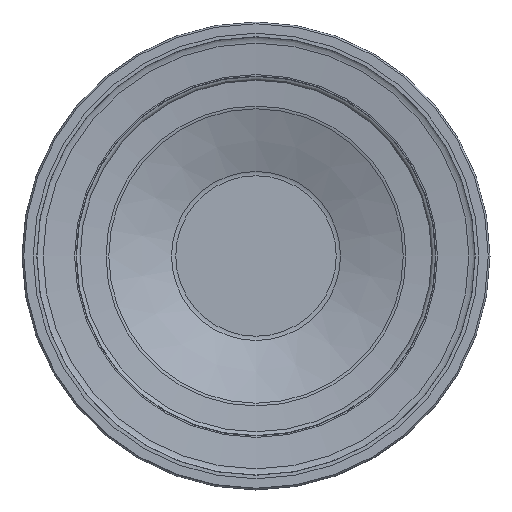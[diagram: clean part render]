
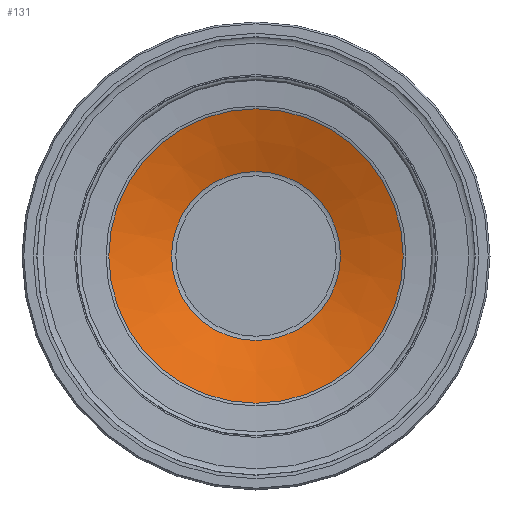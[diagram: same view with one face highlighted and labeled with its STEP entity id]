
A CAD part, left-side view. The second image highlights one B-rep face of the part: STEP entity #131.
In plain terms, the highlighted conical face has half-angle 70 degrees and reference radius 13.39 mm.
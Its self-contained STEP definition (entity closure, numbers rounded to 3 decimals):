
#131=ADVANCED_FACE('',(#198,#199),#140,.F.);
#140=CONICAL_SURFACE('',#474,13.39,70.);
#198=FACE_BOUND('',#262,.T.);
#199=FACE_BOUND('',#263,.T.);
#262=EDGE_LOOP('',(#326));
#263=EDGE_LOOP('',(#327));
#326=ORIENTED_EDGE('',*,*,#393,.T.);
#327=ORIENTED_EDGE('',*,*,#394,.T.);
#361=VERTEX_POINT('',#779);
#362=VERTEX_POINT('',#782);
#393=EDGE_CURVE('',#361,#361,#425,.T.);
#394=EDGE_CURVE('',#362,#362,#426,.T.);
#425=CIRCLE('',#471,13.721);
#426=CIRCLE('',#473,23.914);
#471=AXIS2_PLACEMENT_3D('',#778,#580,#581);
#473=AXIS2_PLACEMENT_3D('',#781,#584,#585);
#474=AXIS2_PLACEMENT_3D('',#783,#586,#587);
#580=DIRECTION('',(1.,0.,0.));
#581=DIRECTION('',(0.,0.,1.));
#584=DIRECTION('',(-1.,0.,0.));
#585=DIRECTION('',(0.,0.,-1.));
#586=DIRECTION('',(-1.,0.,0.));
#587=DIRECTION('',(0.,0.,1.));
#778=CARTESIAN_POINT('',(5.879,0.,0.));
#779=CARTESIAN_POINT('',(5.879,0.,13.721));
#781=CARTESIAN_POINT('',(2.17,0.,0.));
#782=CARTESIAN_POINT('',(2.17,0.,-23.914));
#783=CARTESIAN_POINT('',(6.,0.,0.));
